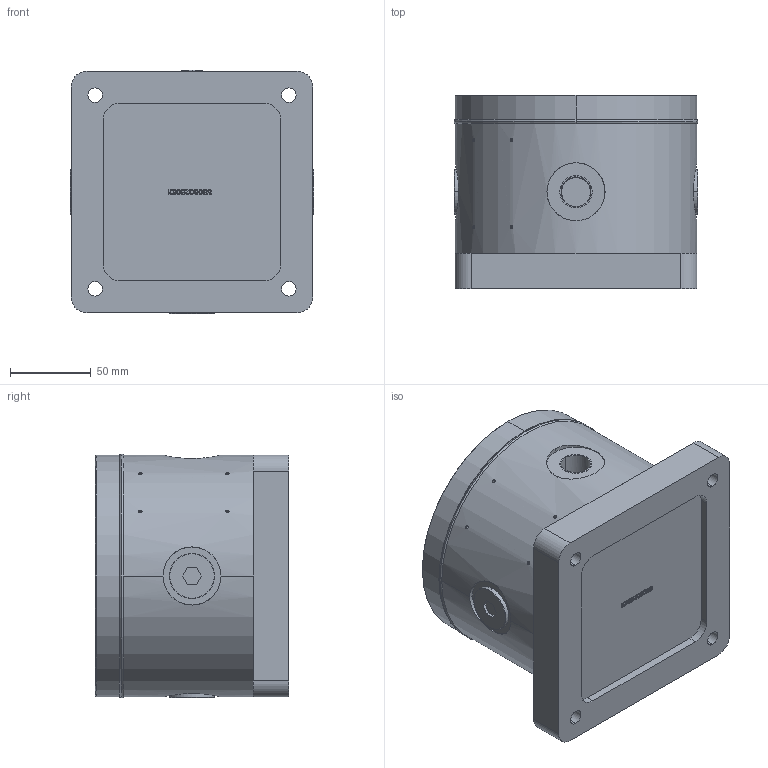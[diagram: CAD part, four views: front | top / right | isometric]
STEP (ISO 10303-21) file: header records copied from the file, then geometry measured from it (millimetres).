
FILE_DESCRIPTION((''),'2;1');
FILE_NAME('0-JB150_ASM','2015-12-21T',('Administrator'),(''),'PRO/ENGINEER BY PARAMETRIC TECHNOLOGY CORPORATION, 2008090','PRO/ENGINEER BY PARAMETRIC TECHNOLOGY CORPORATION, 2008090','');
FILE_SCHEMA(('CONFIG_CONTROL_DESIGN'));
Length unit declared in the file: millimetre
Products named in the file (10): 55060250101; 55050250102; 50060120205; TERMINAL-WDML; TERMIAL-BASE_ASM; 55060110205; 50050280237; 50050280238; 50000010301-M5; 0-JB150_ASM
Assembly tree (16 placements, depth 3):
  0-JB150_ASM
    55060250101
    55050250102
    TERMIAL-BASE_ASM
      50060120205
      TERMINAL-WDML
    55060110205  x3
    50050280237
    50050280238
    50000010301-M5  x6
Bounding box: 151.2 x 120 x 151.2 mm (x, y, z)
Volume: 1465378.9 mm3; surface area: 244145.1 mm2
Topology: 18 solids, 58 shells, 1741 faces, 4571 edges, 2980 vertices
Faces by surface type: plane 1137, cylinder 386, cone 190, bspline 18, torus 10
Entity records: 49719 total; most frequent: CARTESIAN_POINT 10920, ORIENTED_EDGE 7934, DIRECTION 7816, EDGE_CURVE 4037, VECTOR 3214, LINE 3214, VERTEX_POINT 2658, AXIS2_PLACEMENT_3D 2301
